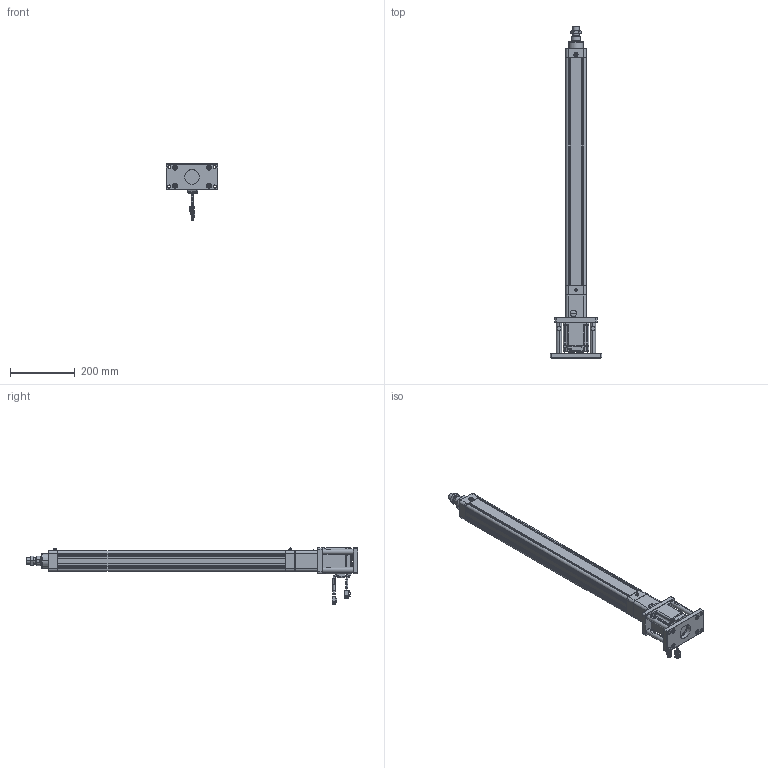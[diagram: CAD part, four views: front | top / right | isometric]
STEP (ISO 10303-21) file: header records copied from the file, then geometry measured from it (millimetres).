
FILE_DESCRIPTION((''),'2;1');
FILE_NAME('HE50-D-100-X1_ASM','2020-04-25T',('ASUS20200'),(''),'CREO PARAMETRIC BY PTC INC, 2014190','CREO PARAMETRIC BY PTC INC, 2014190','');
FILE_SCHEMA(('CONFIG_CONTROL_DESIGN'));
Products named in the file (28): HE50-D-P-001-X1; HE50-D-P-002-X1; HE50-D-P-003-X1; HE50-D-009-X1; HE50-D-010-X1; 6301ZZ; LGLM-M8-22; SKT-16; SLM-01; YZ-M6X1; _MHMF082L1A2; _CABLE_MOTOR_BOTTOM_05; _CABLE_MOTOR_TOP_05; _MOTOR_CONNECTOR_2; _CABLE_BRAKE_BOTTOM_05; _CABLE_BRAKE_TOP_05; _MHMF_CONNECTOR_9_PIN_A6; MHMF082L1A2M2_1_ASM; M6X16; JX6X6X20; JDB303820; HE50-FB-LG; F-HE50FB; M8X20; HE50-D-P-005-X1; HE50-D-P-004-X1; HE50-D-P-008-X1; HE50-D-100-X1_ASM
Assembly tree (47 placements, depth 3):
  HE50-D-100-X1_ASM
    HE50-D-P-001-X1
    HE50-D-P-002-X1
    HE50-D-P-003-X1
    HE50-D-009-X1
    HE50-D-010-X1
    6301ZZ
    LGLM-M8-22  x8
    SKT-16
    SLM-01
    YZ-M6X1
    MHMF082L1A2M2_1_ASM
      _MHMF082L1A2
      _CABLE_MOTOR_BOTTOM_05
      _CABLE_MOTOR_TOP_05
      _MOTOR_CONNECTOR_2
      _CABLE_BRAKE_BOTTOM_05
      _CABLE_BRAKE_TOP_05
      _MHMF_CONNECTOR_9_PIN_A6
    M6X16  x4
    JX6X6X20
    JDB303820
    HE50-FB-LG  x4
    F-HE50FB
    M8X20  x8
    HE50-D-P-005-X1
    HE50-D-P-004-X1
    HE50-D-P-008-X1
Bounding box: 160 x 1026.5 x 173.65 mm (x, y, z)
Volume: 2549172.1 mm3; surface area: 729781.8 mm2
Topology: 46 solids, 82 shells, 2950 faces, 7081 edges, 4381 vertices
Faces by surface type: plane 1213, cylinder 851, cone 705, torus 134, sphere 44, bspline 3
Entity records: 71674 total; most frequent: CARTESIAN_POINT 13407, DIRECTION 12809, ORIENTED_EDGE 11442, EDGE_CURVE 5771, AXIS2_PLACEMENT_3D 4812, VERTEX_POINT 3598, VECTOR 3185, LINE 3185
